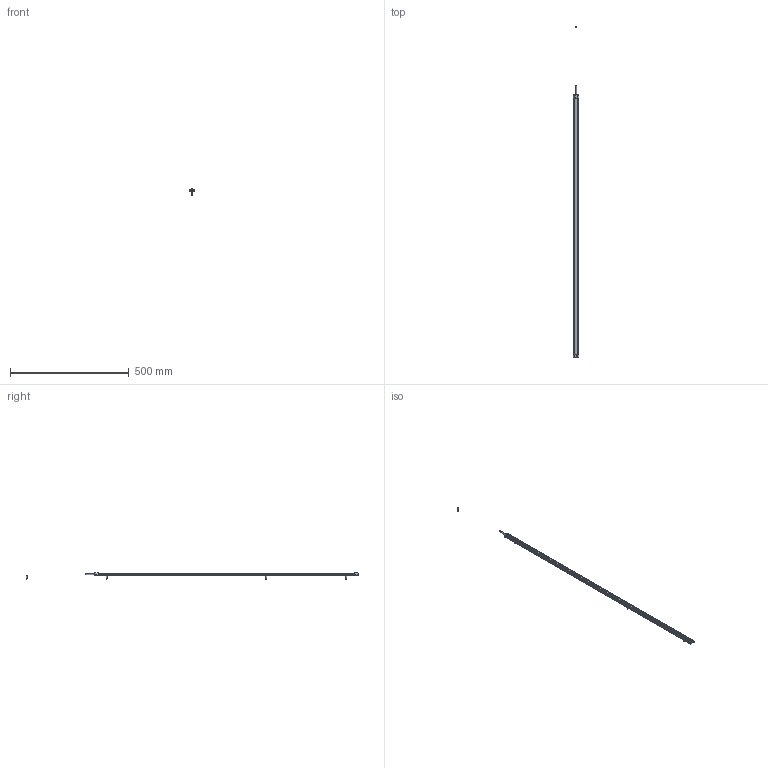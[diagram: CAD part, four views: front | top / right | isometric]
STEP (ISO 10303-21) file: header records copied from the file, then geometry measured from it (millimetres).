
FILE_DESCRIPTION (( 'STEP AP214' ), '1' );
FILE_NAME ('ILGA-B-K1-1110mm.STEP', '2026-04-24T22:50:15', ( '' ), ( '' ), 'SwSTEP 2.0', 'SolidWorks 2025', '' );
FILE_SCHEMA (( 'AUTOMOTIVE_DESIGN' ));
Length unit declared in the file: millimetre
Products named in the file (1): ILGA-B-K1-1110mm
Bounding box: 22.4 x 1399.49 x 25.7 mm (x, y, z)
Volume: 85087.7 mm3; surface area: 151693.2 mm2
Topology: 13 solids, 13 shells, 724 faces, 1856 edges, 1136 vertices
Faces by surface type: plane 314, cylinder 268, cone 60, torus 42, bspline 24, sphere 16
Entity records: 30221 total; most frequent: CARTESIAN_POINT 4617, DIRECTION 3820, ORIENTED_EDGE 3624, EDGE_CURVE 1812, AXIS2_PLACEMENT_3D 1427, VERTEX_POINT 1136, VECTOR 966, LINE 966
